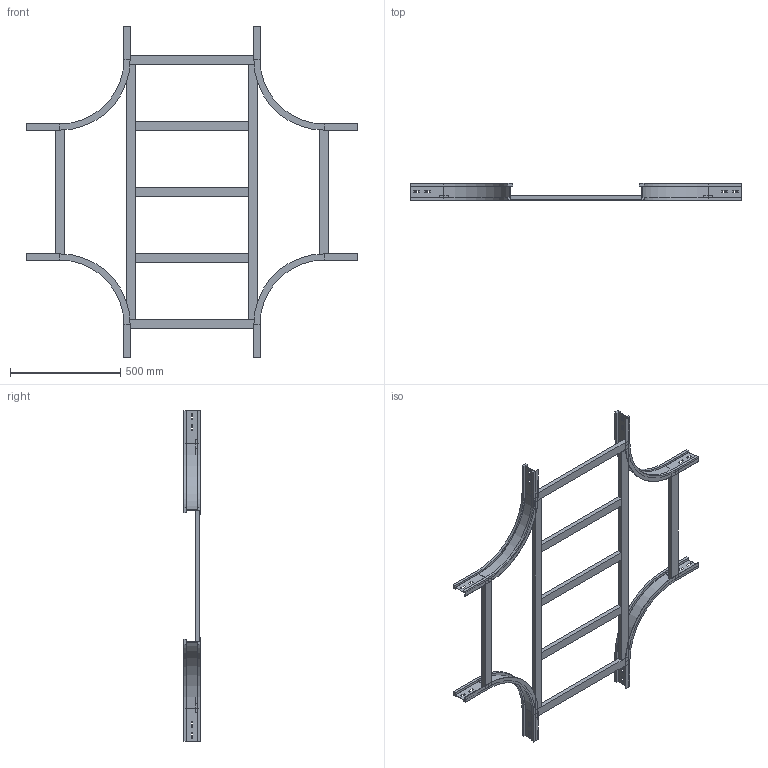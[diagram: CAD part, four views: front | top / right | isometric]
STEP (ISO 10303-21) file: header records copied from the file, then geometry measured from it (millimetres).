
FILE_DESCRIPTION (( 'STEP AP214' ), '1' );
FILE_NAME ('17S3C600.step', '2025-02-21T16:18:37', ( '' ), ( '' ), 'SwSTEP 2.0', 'SolidWorks 2023', '' );
FILE_SCHEMA (( 'AUTOMOTIVE_DESIGN' ));
Length unit declared in the file: millimetre
Products named in the file (5): 17S3C600; TRAVERSINO_LONG._R300+600; TRAVERSINO_INTERMEDIO_X_R300+600; LONGH.INTERNO 90°_H75_R300; TRAVERSINO_600
Assembly tree (13 placements, depth 2):
  17S3C600
    LONGH.INTERNO 90°_H75_R300  x4
    TRAVERSINO_600  x4
    TRAVERSINO_INTERMEDIO_X_R300+600  x3
    TRAVERSINO_LONG._R300+600  x2
Bounding box: 1500 x 75 x 1500 mm (x, y, z)
Volume: 6583661.7 mm3; surface area: 1534472.8 mm2
Topology: 13 solids, 13 shells, 270 faces, 636 edges, 392 vertices
Faces by surface type: plane 246, cylinder 24
Entity records: 2234 total; most frequent: CARTESIAN_POINT 360, DIRECTION 356, ORIENTED_EDGE 336, EDGE_CURVE 168, LINE 156, VECTOR 156, VERTEX_POINT 104, AXIS2_PLACEMENT_3D 100
